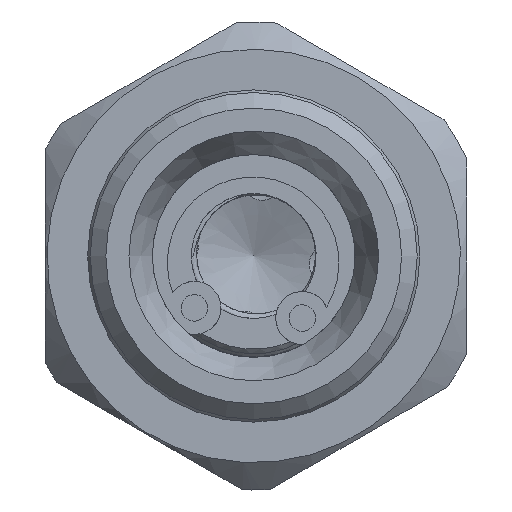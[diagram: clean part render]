
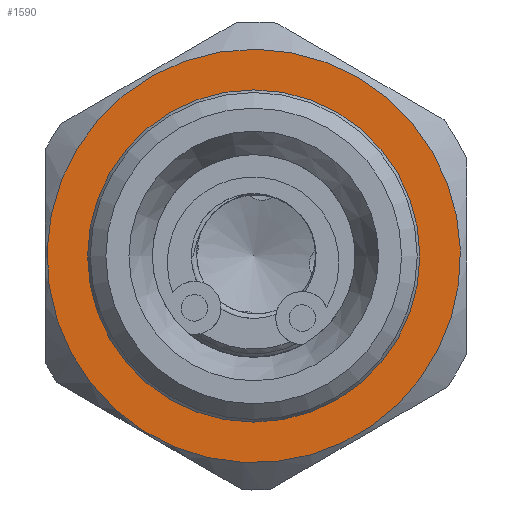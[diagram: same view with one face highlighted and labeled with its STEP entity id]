
A CAD part, front view. The second image highlights one B-rep face of the part: STEP entity #1590.
In plain terms, the highlighted planar face has unit normal (0, -1, 0).
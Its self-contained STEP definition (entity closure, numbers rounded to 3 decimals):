
#232=ORIENTED_EDGE('',*,*,#448,.T.);
#233=ORIENTED_EDGE('',*,*,#447,.F.);
#447=EDGE_CURVE('',#567,#567,#656,.T.);
#448=EDGE_CURVE('',#568,#568,#657,.F.);
#567=VERTEX_POINT('',#2350);
#568=VERTEX_POINT('',#2353);
#656=CIRCLE('',#1696,13.237);
#657=CIRCLE('',#1698,10.639);
#756=EDGE_LOOP('',(#232));
#757=EDGE_LOOP('',(#233));
#891=FACE_BOUND('',#756,.T.);
#892=FACE_BOUND('',#757,.T.);
#998=PLANE('',#1697);
#1590=ADVANCED_FACE('',(#891,#892),#998,.T.);
#1696=AXIS2_PLACEMENT_3D('',#2349,#1920,#1921);
#1697=AXIS2_PLACEMENT_3D('',#2351,#1922,#1923);
#1698=AXIS2_PLACEMENT_3D('',#2352,#1924,#1925);
#1920=DIRECTION('',(0.,1.,0.));
#1921=DIRECTION('',(0.866,0.,0.5));
#1922=DIRECTION('',(0.,-1.,0.));
#1923=DIRECTION('',(0.,0.,-1.));
#1924=DIRECTION('',(0.,-1.,0.));
#1925=DIRECTION('',(0.,0.,-1.));
#2349=CARTESIAN_POINT('',(-0.145,-4.995,-0.101));
#2350=CARTESIAN_POINT('',(11.318,-4.995,6.517));
#2351=CARTESIAN_POINT('',(0.,-4.995,0.));
#2352=CARTESIAN_POINT('',(-0.145,-4.995,-0.101));
#2353=CARTESIAN_POINT('',(-0.145,-4.995,-10.741));
